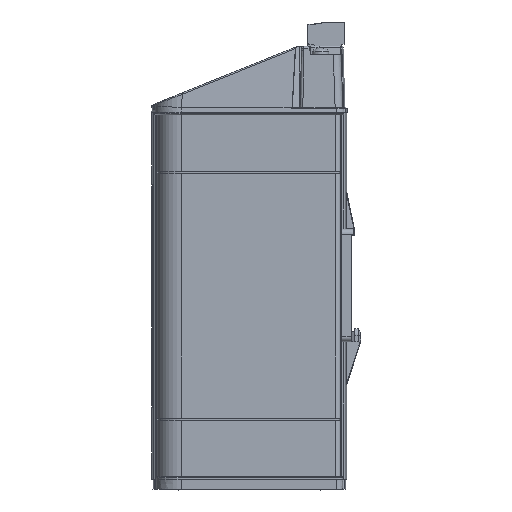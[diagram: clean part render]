
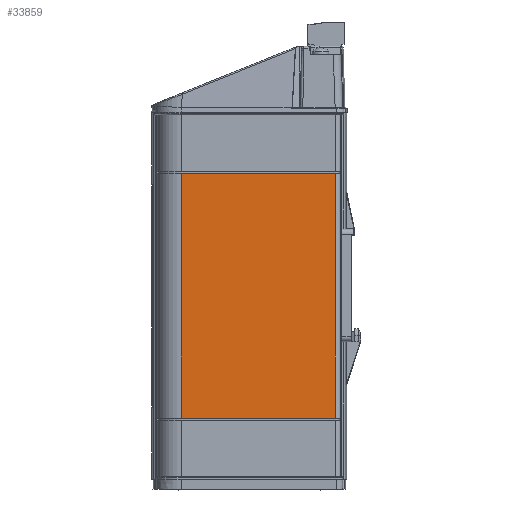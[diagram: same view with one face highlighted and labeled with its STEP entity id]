
A CAD part, left-side view. The second image highlights one B-rep face of the part: STEP entity #33859.
In plain terms, the highlighted planar face has unit normal (-1, 0, 0) as drawn and (0, 1, 0) by its records, which use the part's own axes.
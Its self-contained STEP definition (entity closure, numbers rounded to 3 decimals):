
#411 = DIRECTION ( 'NONE',  ( -1., 0., 0. ) ) ;
#3170 = CARTESIAN_POINT ( 'NONE',  ( 65., 24.6, 0. ) ) ;
#3405 = CARTESIAN_POINT ( 'NONE',  ( 65., 24.6, 100. ) ) ;
#3617 = VECTOR ( 'NONE', #411, 1000. ) ;
#3735 = CARTESIAN_POINT ( 'NONE',  ( 65., 24.6, 100. ) ) ;
#4347 = EDGE_CURVE ( 'NONE', #51071, #37678, #13537, .T. ) ;
#6635 = CARTESIAN_POINT ( 'NONE',  ( 2., 24.6, 0. ) ) ;
#7045 = EDGE_CURVE ( 'NONE', #44485, #37678, #37983, .T. ) ;
#7067 = DIRECTION ( 'NONE',  ( 0., 0., -1. ) ) ;
#10540 = EDGE_LOOP ( 'NONE', ( #47235, #13015, #36566, #31303 ) ) ;
#13015 = ORIENTED_EDGE ( 'NONE', *, *, #30582, .T. ) ;
#13417 = AXIS2_PLACEMENT_3D ( 'NONE', #34542, #26366, #30459 ) ;
#13537 = LINE ( 'NONE', #31354, #3617 ) ;
#15191 = VECTOR ( 'NONE', #30006, 1000. ) ;
#16820 = VECTOR ( 'NONE', #7067, 1000. ) ;
#21316 = EDGE_CURVE ( 'NONE', #40994, #51071, #56483, .T. ) ;
#22088 = LINE ( 'NONE', #35813, #42953 ) ;
#22377 = DIRECTION ( 'NONE',  ( 1., 0., 0. ) ) ;
#26366 = DIRECTION ( 'NONE',  ( 0., 1., 0. ) ) ;
#30006 = DIRECTION ( 'NONE',  ( 0., 0., -1. ) ) ;
#30459 = DIRECTION ( 'NONE',  ( -1., 0., 0. ) ) ;
#30582 = EDGE_CURVE ( 'NONE', #44485, #40994, #22088, .T. ) ;
#31303 = ORIENTED_EDGE ( 'NONE', *, *, #4347, .T. ) ;
#31354 = CARTESIAN_POINT ( 'NONE',  ( 2., 24.6, 0. ) ) ;
#33130 = FACE_OUTER_BOUND ( 'NONE', #10540, .T. ) ;
#33859 = ADVANCED_FACE ( 'NONE', ( #33130 ), #50845, .T. ) ;
#34542 = CARTESIAN_POINT ( 'NONE',  ( 2., 24.6, 100. ) ) ;
#35813 = CARTESIAN_POINT ( 'NONE',  ( 65., 24.6, 100. ) ) ;
#36566 = ORIENTED_EDGE ( 'NONE', *, *, #21316, .T. ) ;
#37678 = VERTEX_POINT ( 'NONE', #6635 ) ;
#37983 = LINE ( 'NONE', #47870, #16820 ) ;
#40994 = VERTEX_POINT ( 'NONE', #3735 ) ;
#42953 = VECTOR ( 'NONE', #22377, 1000. ) ;
#44485 = VERTEX_POINT ( 'NONE', #55954 ) ;
#47235 = ORIENTED_EDGE ( 'NONE', *, *, #7045, .F. ) ;
#47870 = CARTESIAN_POINT ( 'NONE',  ( 2., 24.6, 100. ) ) ;
#50845 = PLANE ( 'NONE',  #13417 ) ;
#51071 = VERTEX_POINT ( 'NONE', #3170 ) ;
#55954 = CARTESIAN_POINT ( 'NONE',  ( 2., 24.6, 100. ) ) ;
#56483 = LINE ( 'NONE', #3405, #15191 ) ;
